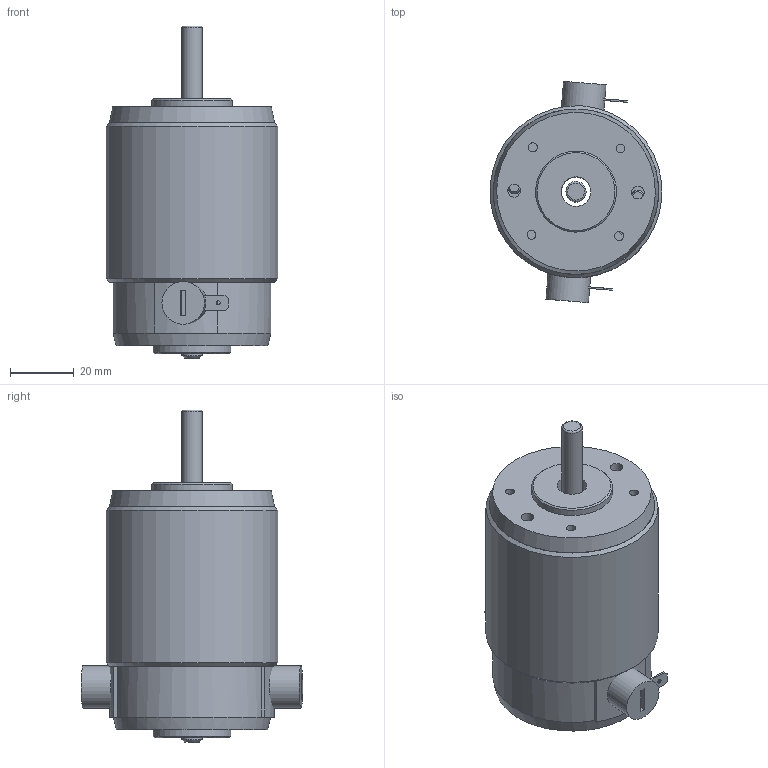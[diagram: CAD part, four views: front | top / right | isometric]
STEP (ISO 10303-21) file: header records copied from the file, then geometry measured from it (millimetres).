
FILE_DESCRIPTION(/* description */ (''),/* implementation_level */ '2;1');
FILE_NAME(/* name */ 'Z:\새 폴더\Compact Type RM5_3D\RM51_TYPE.stp',/* time_stamp */ '2022-04-05T16:35:05+09:00',/* author */ ('umbro'),/* organization */ (''),/* preprocessor_version */ 'ST-DEVELOPER v17',/* originating_system */ 'Autodesk Inventor 2019',/* authorisation */ '');
FILE_SCHEMA (('AUTOMOTIVE_DESIGN { 1 0 10303 214 3 1 1 }'));
Length unit declared in the file: millimetre
Products named in the file (11): RM51_TYPE; RM5_FRONT; RM5_PIPE_pi54XL50; RM5_TYPE_REAR_HOUSING; RM5_REAR; BRUSH_HOLDER_ASSY; BRUSH_HOLDER_ASSY_MIR; RM5_BRUSH_COVER_RED; RM5_BRUSH_COVER_BRACK; RM51_SHAFT; AS 1427 Z - 미터 M4 x 50
Assembly tree (11 placements, depth 3):
  RM51_TYPE
    RM5_FRONT
    RM5_PIPE_pi54XL50
    RM5_TYPE_REAR_HOUSING
      RM5_REAR
      BRUSH_HOLDER_ASSY
      BRUSH_HOLDER_ASSY_MIR
      RM5_BRUSH_COVER_RED
      RM5_BRUSH_COVER_BRACK
    RM51_SHAFT
    AS 1427 Z - 미터 M4 x 50  x2
Bounding box: 53.83 x 69.45 x 104.2 mm (x, y, z)
Volume: 67100.1 mm3; surface area: 38351.2 mm2
Topology: 10 solids, 10 shells, 189 faces, 472 edges, 313 vertices
Faces by surface type: plane 96, cylinder 43, cone 41, torus 9
Full cylindrical faces by diameter (mm): 1.3 x2, 2.8 x7, 3.571 x2, 4 x4, 4.2 x2, 5.76 x3, 6.336 x1, 7 x2, 9.3 x2, 11 x4, 13.4 x2, 24.5 x1, 25.4 x1, 46 x2, 49.6 x1, 54 x1
Entity records: 5241 total; most frequent: CARTESIAN_POINT 1197, DIRECTION 793, ORIENTED_EDGE 714, EDGE_CURVE 357, AXIS2_PLACEMENT_3D 314, VERTEX_POINT 238, EDGE_LOOP 189, LINE 165
